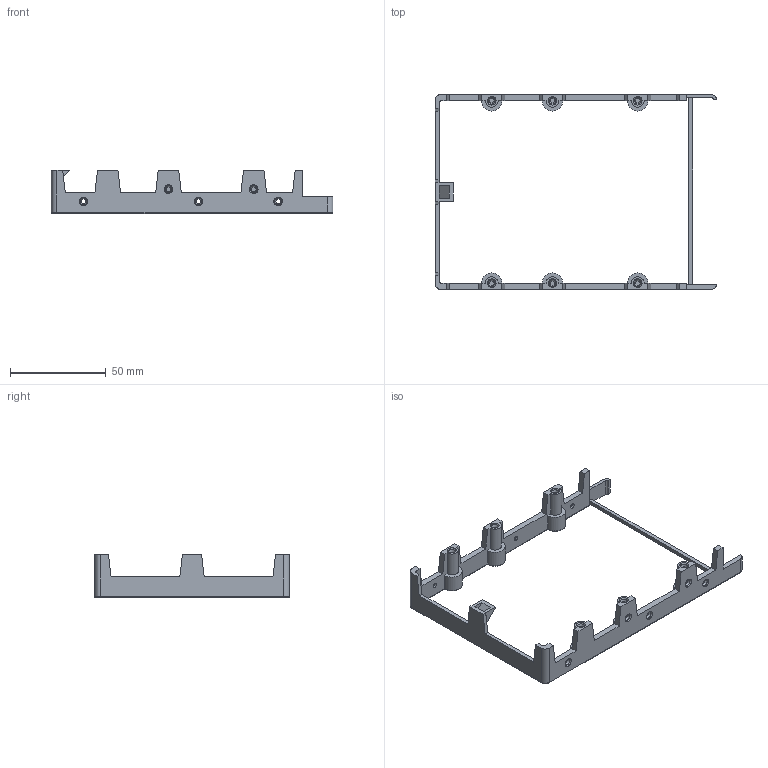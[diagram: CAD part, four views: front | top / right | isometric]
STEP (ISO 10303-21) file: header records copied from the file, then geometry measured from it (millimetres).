
FILE_DESCRIPTION(/* description */ (''),/* implementation_level */ '2;1');
FILE_NAME(/* name */ 'E:/OneDrive/projects/3.5 Hard Drive 50-pin SCSI PCB/123d design/New folder/3.5 Hard Drive Case 50-pin SCSI TH bottom cover openings.stp',/* time_stamp */ '2022-01-04T23:51:14-05:00',/* author */ (''),/* organization */ (''),/* preprocessor_version */ 'ST-DEVELOPER v15.2',/* originating_system */ 'Autodesk Translator Framework v2.0.0.5431',/* authorisation */ '');
FILE_SCHEMA (('AUTOMOTIVE_DESIGN { 1 0 10303 214 3 1 1 }'));
Length unit declared in the file: centimetre
Products named in the file (1): 3.5 Hard Drive Case 50-pin SCSI TH bottom cover openings
Bounding box: 147 x 101.6 x 22.5 mm (x, y, z)
Volume: 19172.5 mm3; surface area: 16719.6 mm2
Topology: 1 solids, 1 shells, 202 faces, 502 edges, 318 vertices
Faces by surface type: plane 93, cylinder 53, cone 44, torus 12
Full cylindrical faces by diameter (mm): 2.5 x6, 2.54 x16
Entity records: 5675 total; most frequent: CARTESIAN_POINT 1099, DIRECTION 962, ORIENTED_EDGE 840, EDGE_CURVE 420, AXIS2_PLACEMENT_3D 353, VERTEX_POINT 302, EDGE_LOOP 298, LINE 256
